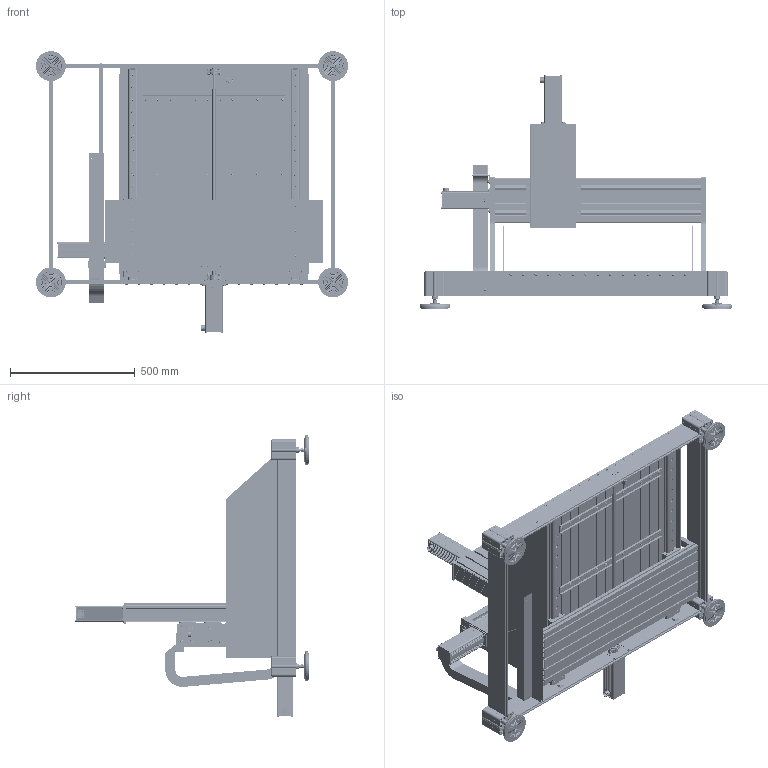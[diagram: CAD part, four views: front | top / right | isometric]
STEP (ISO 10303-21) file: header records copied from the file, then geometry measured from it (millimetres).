
FILE_DESCRIPTION (( 'STEP AP203' ), '1' );
FILE_NAME ('STEP_-_X-Y-Z Flachbetteinheit FB2 - ArtNr 246203M - ArtNr 230514 0400M.step', '2015-04-22T15:02:37', ( '' ), ( '' ), 'SwSTEP 2.0', 'SolidWorks 2014', '' );
FILE_SCHEMA (( 'CONFIG_CONTROL_DESIGN' ));
Length unit declared in the file: millimetre
Products named in the file (6): Tisch Baugruppe_750x850; X-Y-Achse f黵 Verfahrweg 530; TE0179 - F黨rungsschlitten_F乭rungsschlitten f乺 KG-Mutter Typ25; Z-Achse FB2 Hub 160mm; STEP_-_X-Y-Z Flachbetteinheit FB2 - ArtNr 246203M - ArtNr 230514 0400M; Tisch 750x850
Assembly tree (6 placements, depth 3):
  STEP_-_X-Y-Z Flachbetteinheit FB2 - ArtNr 246203M - ArtNr 230514 0400M
    Tisch Baugruppe_750x850
      Tisch 750x850
    X-Y-Achse f黵 Verfahrweg 530
    TE0179 - F黨rungsschlitten_F乭rungsschlitten f乺 KG-Mutter Typ25  x2
    Z-Achse FB2 Hub 160mm
Bounding box: 1250 x 934.3 x 1128.3 mm (x, y, z)
Volume: 26811783.1 mm3; surface area: 16898849.7 mm2
Topology: 445 solids, 445 shells, 15974 faces, 41260 edges, 26711 vertices
Faces by surface type: plane 9178, cylinder 4702, cone 930, torus 603, bspline 421, sphere 140
Full cylindrical faces by diameter (mm): 1.5 x6, 2 x4, 2.33 x2, 2.4 x2, 2.5 x42, 3 x16, 3.2 x13, 4 x33, 4.2 x22, 4.5 x24, 4.6 x1, 4.8 x8, 5 x70, 5.2 x56, 5.5 x21, 6 x210, 6.1 x8, 6.35 x2, 6.4 x16, 6.5 x64, 6.6 x70, 7 x157, 7.2 x3, 7.5 x38, 8 x24, 8.5 x16, 9 x1, 9.2 x3, 9.8 x2, 10 x165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
Entity records: 511022 total; most frequent: CARTESIAN_POINT 145378, ORIENTED_EDGE 73416, DIRECTION 72826, EDGE_CURVE 36708, AXIS2_PLACEMENT_3D 25407, VERTEX_POINT 25317, VECTOR 22012, LINE 22012
